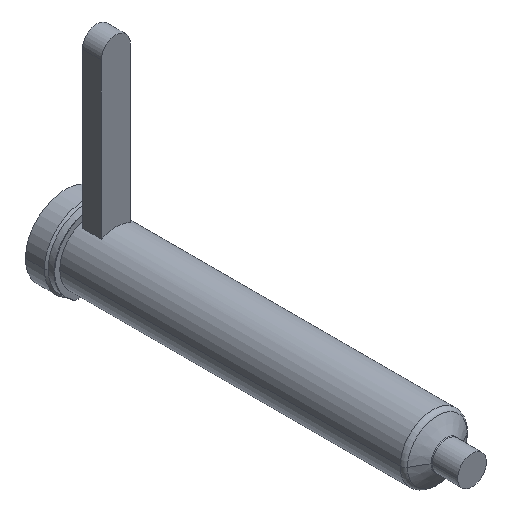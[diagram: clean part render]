
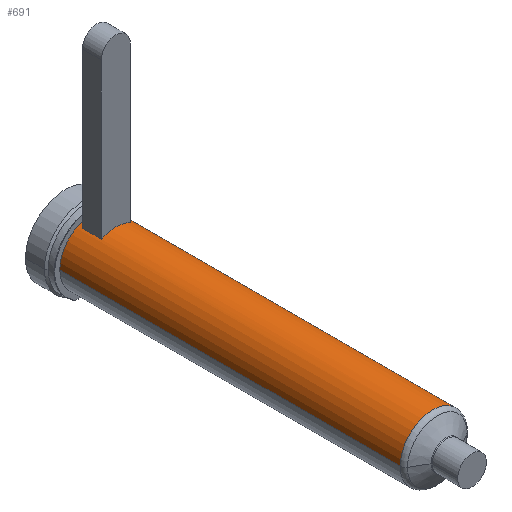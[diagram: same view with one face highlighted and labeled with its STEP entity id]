
A CAD part, isometric view. The second image highlights one B-rep face of the part: STEP entity #691.
In plain terms, the highlighted cylindrical face has radius 18 mm (diameter 36 mm), a partial arc.
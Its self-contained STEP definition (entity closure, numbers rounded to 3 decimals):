
#187=DIRECTION('',(0.,-1.,0.));
#188=VECTOR('',#187,188.206);
#189=CARTESIAN_POINT('',(18.,0.,0.));
#190=LINE('',#189,#188);
#191=CARTESIAN_POINT('',(0.,-188.206,0.));
#192=DIRECTION('',(0.,1.,0.));
#193=DIRECTION('',(-1.,0.,0.));
#194=AXIS2_PLACEMENT_3D('',#191,#192,#193);
#196=DIRECTION('',(0.,1.,0.));
#197=VECTOR('',#196,188.206);
#198=CARTESIAN_POINT('',(-18.,-188.206,0.));
#199=LINE('',#198,#197);
#200=CARTESIAN_POINT('',(0.,0.,0.));
#201=DIRECTION('',(0.,1.,0.));
#202=DIRECTION('',(-1.,0.,0.));
#203=AXIS2_PLACEMENT_3D('',#200,#201,#202);
#281=DIRECTION('',(0.,-1.,0.));
#282=VECTOR('',#281,10.5);
#283=CARTESIAN_POINT('',(-8.,-2.5,16.125));
#284=LINE('',#283,#282);
#285=CARTESIAN_POINT('',(0.,-13.,0.));
#286=DIRECTION('',(0.,1.,0.));
#287=DIRECTION('',(-0.444,0.,0.896));
#288=AXIS2_PLACEMENT_3D('',#285,#286,#287);
#311=CARTESIAN_POINT('',(0.,-2.5,0.));
#312=DIRECTION('',(0.,-1.,0.));
#313=DIRECTION('',(0.444,0.,0.896));
#314=AXIS2_PLACEMENT_3D('',#311,#312,#313);
#329=DIRECTION('',(0.,-1.,0.));
#330=VECTOR('',#329,10.5);
#331=CARTESIAN_POINT('',(8.,-2.5,16.125));
#332=LINE('',#331,#330);
#390=CARTESIAN_POINT('',(-18.,0.,0.));
#391=CARTESIAN_POINT('',(18.,0.,0.));
#392=VERTEX_POINT('',#390);
#393=VERTEX_POINT('',#391);
#402=CARTESIAN_POINT('',(-8.,-2.5,16.125));
#403=VERTEX_POINT('',#402);
#404=CARTESIAN_POINT('',(8.,-2.5,16.125));
#405=VERTEX_POINT('',#404);
#438=CARTESIAN_POINT('',(18.,-188.206,0.));
#439=VERTEX_POINT('',#438);
#448=CARTESIAN_POINT('',(-18.,-188.206,0.));
#449=VERTEX_POINT('',#448);
#450=CARTESIAN_POINT('',(-8.,-13.,16.125));
#451=CARTESIAN_POINT('',(8.,-13.,16.125));
#452=VERTEX_POINT('',#450);
#453=VERTEX_POINT('',#451);
#669=CARTESIAN_POINT('',(0.,16.4,0.));
#670=DIRECTION('',(0.,-1.,0.));
#671=DIRECTION('',(-1.,0.,0.));
#672=AXIS2_PLACEMENT_3D('',#669,#670,#671);
#673=CYLINDRICAL_SURFACE('',#672,18.);
#674=ORIENTED_EDGE('',*,*,#663,.T.);
#676=ORIENTED_EDGE('',*,*,#675,.F.);
#677=ORIENTED_EDGE('',*,*,#659,.T.);
#678=ORIENTED_EDGE('',*,*,#649,.T.);
#679=EDGE_LOOP('',(#674,#676,#677,#678));
#680=FACE_OUTER_BOUND('',#679,.F.);
#682=ORIENTED_EDGE('',*,*,#681,.T.);
#684=ORIENTED_EDGE('',*,*,#683,.T.);
#686=ORIENTED_EDGE('',*,*,#685,.F.);
#688=ORIENTED_EDGE('',*,*,#687,.T.);
#689=EDGE_LOOP('',(#682,#684,#686,#688));
#690=FACE_BOUND('',#689,.F.);
#691=ADVANCED_FACE('',(#680,#690),#673,.T.);
#195=CIRCLE('',#194,18.);
#204=CIRCLE('',#203,18.);
#289=CIRCLE('',#288,18.);
#315=CIRCLE('',#314,18.);
#649=EDGE_CURVE('',#392,#393,#204,.T.);
#659=EDGE_CURVE('',#449,#392,#199,.T.);
#663=EDGE_CURVE('',#393,#439,#190,.T.);
#675=EDGE_CURVE('',#449,#439,#195,.T.);
#681=EDGE_CURVE('',#403,#452,#284,.T.);
#683=EDGE_CURVE('',#452,#453,#289,.T.);
#685=EDGE_CURVE('',#405,#453,#332,.T.);
#687=EDGE_CURVE('',#405,#403,#315,.T.);
